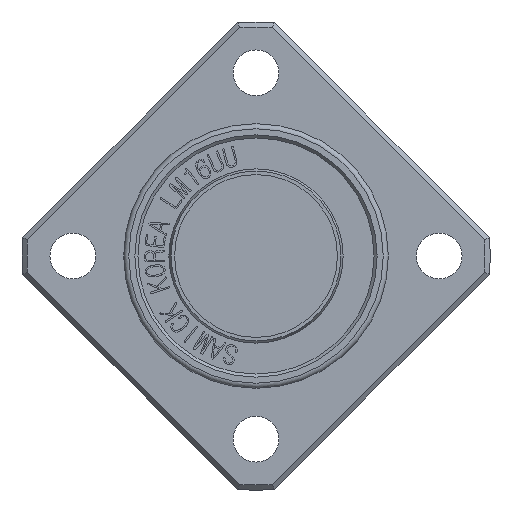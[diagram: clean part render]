
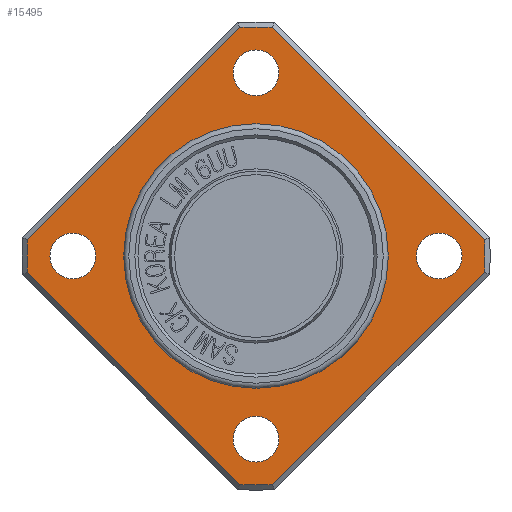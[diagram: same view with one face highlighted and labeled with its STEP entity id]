
A CAD part, front view. The second image highlights one B-rep face of the part: STEP entity #15495.
In plain terms, the highlighted planar face has unit normal (0, -1, 0).
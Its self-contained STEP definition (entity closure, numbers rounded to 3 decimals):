
#2194=FACE_BOUND('',#3220,.T.);
#2195=FACE_BOUND('',#3221,.T.);
#2196=FACE_BOUND('',#3222,.T.);
#2197=FACE_BOUND('',#3223,.T.);
#2198=FACE_BOUND('',#3224,.T.);
#2258=CIRCLE('',#16367,22.5);
#2262=CIRCLE('',#16377,22.5);
#2264=CIRCLE('',#16380,22.5);
#2265=CIRCLE('',#16381,22.5);
#2266=CIRCLE('',#16382,13.);
#2267=CIRCLE('',#16383,13.);
#2268=CIRCLE('',#16384,2.25);
#2269=CIRCLE('',#16385,2.25);
#2270=CIRCLE('',#16386,2.25);
#2271=CIRCLE('',#16387,2.25);
#2361=FACE_OUTER_BOUND('',#3219,.T.);
#3219=EDGE_LOOP('',(#10468,#10469,#10470,#10471,#10472,#10473,#10474,#10475));
#3220=EDGE_LOOP('',(#10476,#10477));
#3221=EDGE_LOOP('',(#10478));
#3222=EDGE_LOOP('',(#10479));
#3223=EDGE_LOOP('',(#10480));
#3224=EDGE_LOOP('',(#10481));
#4132=LINE('',#18564,#5266);
#4142=LINE('',#18612,#5276);
#4143=LINE('',#18623,#5277);
#4145=LINE('',#18640,#5279);
#5266=VECTOR('',#16720,10.);
#5276=VECTOR('',#16750,10.);
#5277=VECTOR('',#16753,10.);
#5279=VECTOR('',#16765,10.);
#6417=VERTEX_POINT('',#18559);
#6418=VERTEX_POINT('',#18563);
#6422=VERTEX_POINT('',#18577);
#6431=VERTEX_POINT('',#18611);
#6433=VERTEX_POINT('',#18618);
#6434=VERTEX_POINT('',#18622);
#6436=VERTEX_POINT('',#18630);
#6438=VERTEX_POINT('',#18638);
#6439=VERTEX_POINT('',#18642);
#6440=VERTEX_POINT('',#18643);
#6441=VERTEX_POINT('',#18646);
#6442=VERTEX_POINT('',#18648);
#6443=VERTEX_POINT('',#18650);
#6444=VERTEX_POINT('',#18652);
#8025=EDGE_CURVE('',#6417,#6418,#4132,.T.);
#8031=EDGE_CURVE('',#6422,#6418,#2258,.T.);
#8044=EDGE_CURVE('',#6422,#6431,#4142,.T.);
#8047=EDGE_CURVE('',#6433,#6434,#4143,.T.);
#8050=EDGE_CURVE('',#6436,#6434,#2262,.T.);
#8053=EDGE_CURVE('',#6417,#6438,#2264,.T.);
#8054=EDGE_CURVE('',#6436,#6438,#4145,.T.);
#8055=EDGE_CURVE('',#6433,#6431,#2265,.T.);
#8056=EDGE_CURVE('',#6439,#6440,#2266,.T.);
#8057=EDGE_CURVE('',#6440,#6439,#2267,.T.);
#8058=EDGE_CURVE('',#6441,#6441,#2268,.T.);
#8059=EDGE_CURVE('',#6442,#6442,#2269,.T.);
#8060=EDGE_CURVE('',#6443,#6443,#2270,.T.);
#8061=EDGE_CURVE('',#6444,#6444,#2271,.T.);
#10468=ORIENTED_EDGE('',*,*,#8025,.F.);
#10469=ORIENTED_EDGE('',*,*,#8053,.T.);
#10470=ORIENTED_EDGE('',*,*,#8054,.F.);
#10471=ORIENTED_EDGE('',*,*,#8050,.T.);
#10472=ORIENTED_EDGE('',*,*,#8047,.F.);
#10473=ORIENTED_EDGE('',*,*,#8055,.T.);
#10474=ORIENTED_EDGE('',*,*,#8044,.F.);
#10475=ORIENTED_EDGE('',*,*,#8031,.T.);
#10476=ORIENTED_EDGE('',*,*,#8056,.F.);
#10477=ORIENTED_EDGE('',*,*,#8057,.F.);
#10478=ORIENTED_EDGE('',*,*,#8058,.T.);
#10479=ORIENTED_EDGE('',*,*,#8059,.T.);
#10480=ORIENTED_EDGE('',*,*,#8060,.T.);
#10481=ORIENTED_EDGE('',*,*,#8061,.T.);
#15254=PLANE('',#16379);
#15495=ADVANCED_FACE('',(#2361,#2194,#2195,#2196,#2197,#2198),#15254,.T.);
#16367=AXIS2_PLACEMENT_3D('',#18578,#16729,#16730);
#16377=AXIS2_PLACEMENT_3D('',#18631,#16757,#16758);
#16379=AXIS2_PLACEMENT_3D('',#18637,#16761,#16762);
#16380=AXIS2_PLACEMENT_3D('',#18639,#16763,#16764);
#16381=AXIS2_PLACEMENT_3D('',#18641,#16766,#16767);
#16382=AXIS2_PLACEMENT_3D('',#18644,#16768,#16769);
#16383=AXIS2_PLACEMENT_3D('',#18645,#16770,#16771);
#16384=AXIS2_PLACEMENT_3D('',#18647,#16772,#16773);
#16385=AXIS2_PLACEMENT_3D('',#18649,#16774,#16775);
#16386=AXIS2_PLACEMENT_3D('',#18651,#16776,#16777);
#16387=AXIS2_PLACEMENT_3D('',#18653,#16778,#16779);
#16720=DIRECTION('',(-0.707,0.,-0.707));
#16729=DIRECTION('center_axis',(0.,-1.,0.));
#16730=DIRECTION('ref_axis',(1.,0.,0.));
#16750=DIRECTION('',(-0.707,0.,0.707));
#16753=DIRECTION('',(0.707,0.,0.707));
#16757=DIRECTION('center_axis',(0.,-1.,0.));
#16758=DIRECTION('ref_axis',(1.,0.,0.));
#16761=DIRECTION('center_axis',(0.,-1.,0.));
#16762=DIRECTION('ref_axis',(0.,0.,-1.));
#16763=DIRECTION('center_axis',(0.,-1.,0.));
#16764=DIRECTION('ref_axis',(1.,0.,0.));
#16765=DIRECTION('',(0.707,0.,-0.707));
#16766=DIRECTION('center_axis',(0.,-1.,0.));
#16767=DIRECTION('ref_axis',(1.,0.,0.));
#16768=DIRECTION('center_axis',(0.,-1.,0.));
#16769=DIRECTION('ref_axis',(1.,0.,0.));
#16770=DIRECTION('center_axis',(0.,-1.,0.));
#16771=DIRECTION('ref_axis',(1.,0.,0.));
#16772=DIRECTION('center_axis',(0.,1.,0.));
#16773=DIRECTION('ref_axis',(1.,0.,0.));
#16774=DIRECTION('center_axis',(0.,1.,0.));
#16775=DIRECTION('ref_axis',(0.,0.,
-1.));
#16776=DIRECTION('center_axis',(0.,1.,0.));
#16777=DIRECTION('ref_axis',(-1.,0.,0.));
#16778=DIRECTION('center_axis',(0.,1.,0.));
#16779=DIRECTION('ref_axis',(0.,0.,
1.));
#18559=CARTESIAN_POINT('',(22.443,12.,-1.598));
#18563=CARTESIAN_POINT('',(1.598,12.,-22.443));
#18564=CARTESIAN_POINT('',(9.994,12.,-14.048));
#18577=CARTESIAN_POINT('',(-1.598,12.,-22.443));
#18578=CARTESIAN_POINT('Origin',(0.,12.,0.));
#18611=CARTESIAN_POINT('',(-22.443,12.,-1.598));
#18612=CARTESIAN_POINT('',(-14.048,12.,-9.994));
#18618=CARTESIAN_POINT('',(-22.443,12.,1.598));
#18622=CARTESIAN_POINT('',(-1.598,12.,22.443));
#18623=CARTESIAN_POINT('',(-3.494,12.,20.548));
#18630=CARTESIAN_POINT('',(1.598,12.,22.443));
#18631=CARTESIAN_POINT('Origin',(0.,12.,0.));
#18637=CARTESIAN_POINT('Origin',(13.,12.,0.));
#18638=CARTESIAN_POINT('',(22.443,12.,1.598));
#18639=CARTESIAN_POINT('Origin',(0.,12.,0.));
#18640=CARTESIAN_POINT('',(20.548,12.,3.494));
#18641=CARTESIAN_POINT('Origin',(0.,12.,0.));
#18642=CARTESIAN_POINT('',(13.,12.,0.));
#18643=CARTESIAN_POINT('',(-13.,12.,0.));
#18644=CARTESIAN_POINT('Origin',(0.,12.,0.));
#18645=CARTESIAN_POINT('Origin',(0.,12.,0.));
#18646=CARTESIAN_POINT('',(15.75,12.,0.));
#18647=CARTESIAN_POINT('Origin',(18.,12.,0.));
#18648=CARTESIAN_POINT('',(0.,12.,-15.75));
#18649=CARTESIAN_POINT('Origin',(0.,12.,-18.));
#18650=CARTESIAN_POINT('',(-15.75,12.,0.));
#18651=CARTESIAN_POINT('Origin',(-18.,12.,0.));
#18652=CARTESIAN_POINT('',(0.,12.,15.75));
#18653=CARTESIAN_POINT('Origin',(0.,12.,18.));
